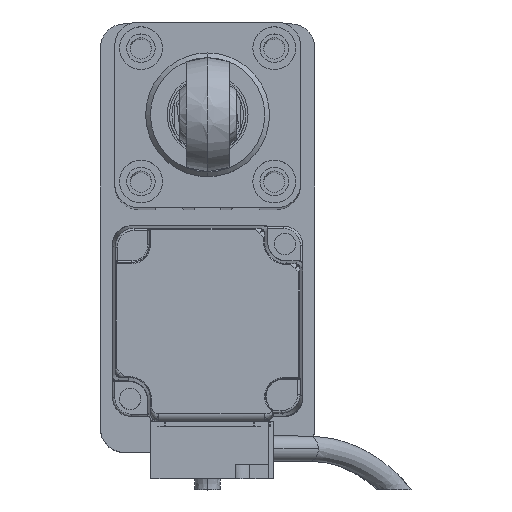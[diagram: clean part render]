
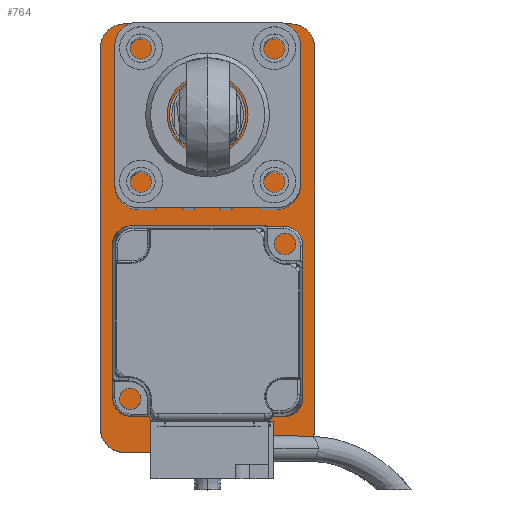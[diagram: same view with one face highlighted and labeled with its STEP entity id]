
A CAD part, top view. The second image highlights one B-rep face of the part: STEP entity #764.
In plain terms, the highlighted planar face has unit normal (0, 0, 1).
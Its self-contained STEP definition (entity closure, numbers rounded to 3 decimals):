
#163 = LINE ( 'NONE', #7938, #24562 ) ;
#764 = ADVANCED_FACE ( 'NONE', ( #23938 ), #32295, .T. ) ;
#884 = EDGE_CURVE ( 'NONE', #16541, #18466, #26690, .T. ) ;
#1203 = CARTESIAN_POINT ( 'NONE',  ( -17.5, -45., 10. ) ) ;
#1619 = VECTOR ( 'NONE', #21123, 1000. ) ;
#2275 = DIRECTION ( 'NONE',  ( -1., 0., 0. ) ) ;
#3665 = ORIENTED_EDGE ( 'NONE', *, *, #25313, .T. ) ;
#4150 = CARTESIAN_POINT ( 'NONE',  ( 17.5, 40., 10. ) ) ;
#4472 = EDGE_LOOP ( 'NONE', ( #14167, #28313, #5385, #8391, #8297, #9514, #26993, #3665 ) ) ;
#4553 = CARTESIAN_POINT ( 'NONE',  ( 22.5, 40., 10. ) ) ;
#5385 = ORIENTED_EDGE ( 'NONE', *, *, #12139, .T. ) ;
#5859 = VERTEX_POINT ( 'NONE', #11732 ) ;
#7456 = CARTESIAN_POINT ( 'NONE',  ( -22.5, 40., 10. ) ) ;
#7496 = DIRECTION ( 'NONE',  ( 1., 0., 0. ) ) ;
#7890 = EDGE_CURVE ( 'NONE', #5859, #11873, #14829, .T. ) ;
#7938 = CARTESIAN_POINT ( 'NONE',  ( 22.5, -45., 10. ) ) ;
#8297 = ORIENTED_EDGE ( 'NONE', *, *, #29707, .T. ) ;
#8391 = ORIENTED_EDGE ( 'NONE', *, *, #884, .T. ) ;
#9143 = CARTESIAN_POINT ( 'NONE',  ( 17.5, -45., 10. ) ) ;
#9198 = DIRECTION ( 'NONE',  ( 0., 0., 1. ) ) ;
#9258 = AXIS2_PLACEMENT_3D ( 'NONE', #31470, #28733, #16413 ) ;
#9514 = ORIENTED_EDGE ( 'NONE', *, *, #7890, .T. ) ;
#9806 = DIRECTION ( 'NONE',  ( 0., 0., 1. ) ) ;
#10425 = VERTEX_POINT ( 'NONE', #4553 ) ;
#10706 = CARTESIAN_POINT ( 'NONE',  ( -17.5, 40., 10. ) ) ;
#11390 = CIRCLE ( 'NONE', #28051, 5. ) ;
#11732 = CARTESIAN_POINT ( 'NONE',  ( -22.5, -40., 10. ) ) ;
#11873 = VERTEX_POINT ( 'NONE', #1203 ) ;
#12139 = EDGE_CURVE ( 'NONE', #13271, #16541, #30830, .T. ) ;
#12264 = VECTOR ( 'NONE', #2275, 1000. ) ;
#13017 = VERTEX_POINT ( 'NONE', #9143 ) ;
#13271 = VERTEX_POINT ( 'NONE', #23359 ) ;
#13424 = CARTESIAN_POINT ( 'NONE',  ( 22.5, -45., 10. ) ) ;
#14167 = ORIENTED_EDGE ( 'NONE', *, *, #16110, .T. ) ;
#14583 = DIRECTION ( 'NONE',  ( 1., 0., 0. ) ) ;
#14689 = EDGE_CURVE ( 'NONE', #10425, #13271, #11390, .T. ) ;
#14829 = CIRCLE ( 'NONE', #32488, 5. ) ;
#16110 = EDGE_CURVE ( 'NONE', #26766, #10425, #24865, .T. ) ;
#16413 = DIRECTION ( 'NONE',  ( 1., 0., 0. ) ) ;
#16532 = AXIS2_PLACEMENT_3D ( 'NONE', #25022, #9806, #7496 ) ;
#16541 = VERTEX_POINT ( 'NONE', #24046 ) ;
#16584 = DIRECTION ( 'NONE',  ( 0., 0., 1. ) ) ;
#16804 = DIRECTION ( 'NONE',  ( 1., 0., 0. ) ) ;
#17712 = CARTESIAN_POINT ( 'NONE',  ( 22.5, 45., 10. ) ) ;
#18466 = VERTEX_POINT ( 'NONE', #7456 ) ;
#18645 = DIRECTION ( 'NONE',  ( 1., 0., 0. ) ) ;
#19054 = CARTESIAN_POINT ( 'NONE',  ( -22.5, -45., 10. ) ) ;
#21123 = DIRECTION ( 'NONE',  ( 0., 1., 0. ) ) ;
#22176 = CARTESIAN_POINT ( 'NONE',  ( -17.5, -40., 10. ) ) ;
#22617 = EDGE_CURVE ( 'NONE', #11873, #13017, #163, .T. ) ;
#22695 = CARTESIAN_POINT ( 'NONE',  ( 22.5, -40., 10. ) ) ;
#23359 = CARTESIAN_POINT ( 'NONE',  ( 17.5, 45., 10. ) ) ;
#23938 = FACE_OUTER_BOUND ( 'NONE', #4472, .T. ) ;
#24046 = CARTESIAN_POINT ( 'NONE',  ( -17.5, 45., 10. ) ) ;
#24480 = DIRECTION ( 'NONE',  ( 1., 0., 0. ) ) ;
#24562 = VECTOR ( 'NONE', #18645, 1000. ) ;
#24865 = LINE ( 'NONE', #13424, #1619 ) ;
#25022 = CARTESIAN_POINT ( 'NONE',  ( 0., 0., 10. ) ) ;
#25313 = EDGE_CURVE ( 'NONE', #13017, #26766, #27136, .T. ) ;
#26208 = DIRECTION ( 'NONE',  ( 0., -1., 0. ) ) ;
#26690 = CIRCLE ( 'NONE', #27919, 5. ) ;
#26766 = VERTEX_POINT ( 'NONE', #22695 ) ;
#26993 = ORIENTED_EDGE ( 'NONE', *, *, #22617, .T. ) ;
#27136 = CIRCLE ( 'NONE', #9258, 5. ) ;
#27919 = AXIS2_PLACEMENT_3D ( 'NONE', #10706, #16584, #24480 ) ;
#28051 = AXIS2_PLACEMENT_3D ( 'NONE', #4150, #9198, #16804 ) ;
#28313 = ORIENTED_EDGE ( 'NONE', *, *, #14689, .T. ) ;
#28733 = DIRECTION ( 'NONE',  ( 0., 0., 1. ) ) ;
#29707 = EDGE_CURVE ( 'NONE', #18466, #5859, #32380, .T. ) ;
#30455 = VECTOR ( 'NONE', #26208, 1000. ) ;
#30830 = LINE ( 'NONE', #17712, #12264 ) ;
#31470 = CARTESIAN_POINT ( 'NONE',  ( 17.5, -40., 10. ) ) ;
#32295 = PLANE ( 'NONE',  #16532 ) ;
#32380 = LINE ( 'NONE', #19054, #30455 ) ;
#32488 = AXIS2_PLACEMENT_3D ( 'NONE', #22176, #32540, #14583 ) ;
#32540 = DIRECTION ( 'NONE',  ( 0., 0., 1. ) ) ;
